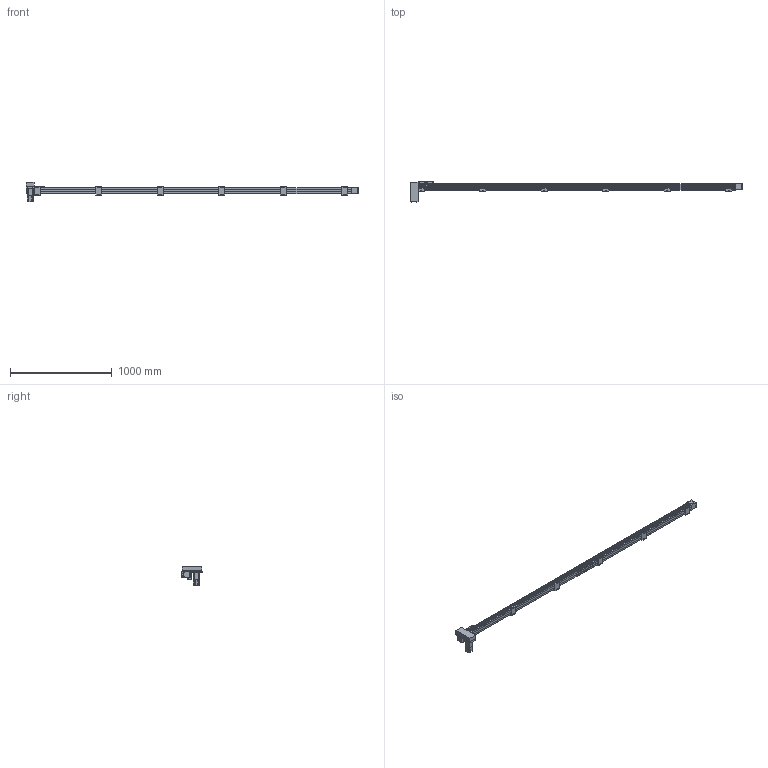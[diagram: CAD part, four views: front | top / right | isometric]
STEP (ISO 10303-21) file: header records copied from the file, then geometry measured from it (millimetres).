
FILE_DESCRIPTION(/* description */ ('STEP AP214'),/* implementation_level */ '2;1');
FILE_NAME(/* name */ 'SK60-P13-S2950-RD-T40-C1-N(0)',/* time_stamp */ '2023-04-06T04:57:34+02:00',/* author */ ('License CC BY-ND 4.0'),/* organization */ ('CADENAS'),/* preprocessor_version */ 'ST-DEVELOPER v19.3',/* originating_system */ 'PARTsolutions',/* authorisation */ ' ');
FILE_SCHEMA (('AUTOMOTIVE_DESIGN {1 0 10303 214 3 1 1}'));
Length unit declared in the file: millimetre
Products named in the file (10): SK60-P13-S2950-RD-T40-C1-N(0); PSC140-sensor; SK60-S450_seat; SK60-S450-BL-C1_slider; SK60_body3; SK60_body6; SK60-BL_body2; T40-p1; SK60-RD_fb; SK60-S2950-RD-C1_body
Assembly tree (20 placements, depth 2):
  SK60-P13-S2950-RD-T40-C1-N(0)
    PSC140-sensor  x3
    SK60-S450_seat  x6
    SK60-S450-BL-C1_slider
    SK60_body3  x3
    SK60_body6  x2
    SK60-BL_body2  x2
    T40-p1
    SK60-RD_fb
    SK60-S2950-RD-C1_body
Bounding box: 3255.5 x 199 x 189.7 mm (x, y, z)
Volume: 12228159.8 mm3; surface area: 1425853.9 mm2
Topology: 20 solids, 20 shells, 986 faces, 2440 edges, 1605 vertices
Faces by surface type: plane 620, cylinder 326, cone 38, torus 2
Full cylindrical faces by diameter (mm): 2.8 x3, 3.3 x4, 4 x2, 4.5 x30, 4.6 x3, 4.917 x32, 5 x6, 5.478 x4, 5.5 x35, 6.5 x12, 7 x2, 8 x4, 8.5 x4, 9.988 x4, 10 x24, 14 x1, 47 x3, 50 x2
Entity records: 18687 total; most frequent: DIRECTION 3192, CARTESIAN_POINT 3154, ORIENTED_EDGE 2940, EDGE_CURVE 1470, AXIS2_PLACEMENT_3D 1072, LINE 1048, VECTOR 1048, VERTEX_POINT 1034
